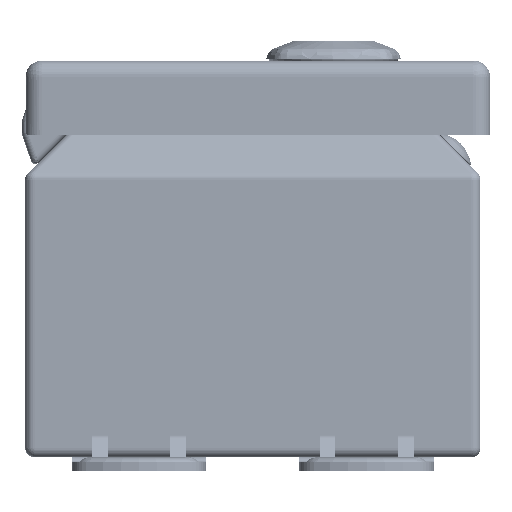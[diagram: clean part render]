
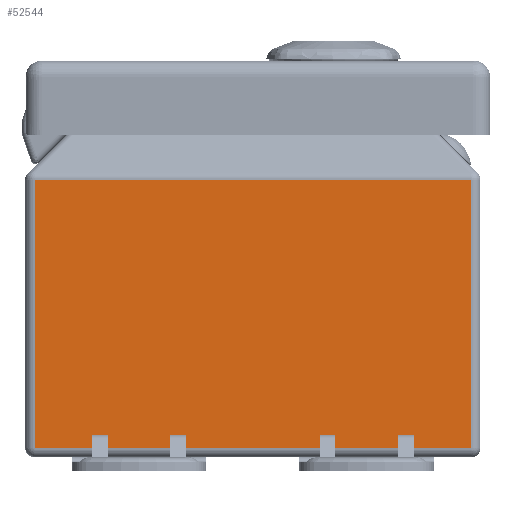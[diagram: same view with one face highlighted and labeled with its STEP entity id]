
A CAD part, front view. The second image highlights one B-rep face of the part: STEP entity #52544.
In plain terms, the highlighted planar face has unit normal (0, -1, 0).
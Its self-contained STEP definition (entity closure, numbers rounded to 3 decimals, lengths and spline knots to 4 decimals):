
#3196=PLANE('',#56647);
#4710=FACE_OUTER_BOUND('',#8013,.T.);
#8013=EDGE_LOOP('',(#36055,#36056,#36057,#36058));
#11541=LINE('',#77457,#15900);
#11543=LINE('',#77470,#15902);
#11544=LINE('',#77474,#15903);
#11545=LINE('',#77475,#15904);
#15900=VECTOR('',#62266,0.3937);
#15902=VECTOR('',#62284,0.3937);
#15903=VECTOR('',#62289,0.3937);
#15904=VECTOR('',#62290,0.3937);
#22462=VERTEX_POINT('',#77454);
#22463=VERTEX_POINT('',#77456);
#22466=VERTEX_POINT('',#77469);
#22467=VERTEX_POINT('',#77473);
#27588=EDGE_CURVE('',#22462,#22463,#11541,.T.);
#27595=EDGE_CURVE('',#22463,#22466,#11543,.T.);
#27597=EDGE_CURVE('',#22467,#22462,#11544,.T.);
#27598=EDGE_CURVE('',#22466,#22467,#11545,.T.);
#36055=ORIENTED_EDGE('',*,*,#27588,.F.);
#36056=ORIENTED_EDGE('',*,*,#27597,.F.);
#36057=ORIENTED_EDGE('',*,*,#27598,.F.);
#36058=ORIENTED_EDGE('',*,*,#27595,.F.);
#52544=ADVANCED_FACE('',(#4710),#3196,.F.);
#56647=AXIS2_PLACEMENT_3D('',#77472,#62287,#62288);
#62266=DIRECTION('',(0.,0.,1.));
#62284=DIRECTION('',(1.,0.,0.));
#62287=DIRECTION('center_axis',(0.,1.,0.));
#62288=DIRECTION('ref_axis',(0.,0.,1.));
#62289=DIRECTION('',(-1.,0.,0.));
#62290=DIRECTION('',(0.,0.,-1.));
#77454=CARTESIAN_POINT('',(-1.916,-3.,0.084));
#77456=CARTESIAN_POINT('',(-1.916,-3.,2.4372));
#77457=CARTESIAN_POINT('',(-1.916,-3.,1.5562));
#77469=CARTESIAN_POINT('',(1.916,-3.,2.4372));
#77470=CARTESIAN_POINT('',(0.,-3.,2.4372));
#77472=CARTESIAN_POINT('Origin',(0.,-3.,1.236));
#77473=CARTESIAN_POINT('',(1.916,-3.,0.084));
#77474=CARTESIAN_POINT('',(0.,-3.,0.084));
#77475=CARTESIAN_POINT('',(1.916,-3.,1.5352));
